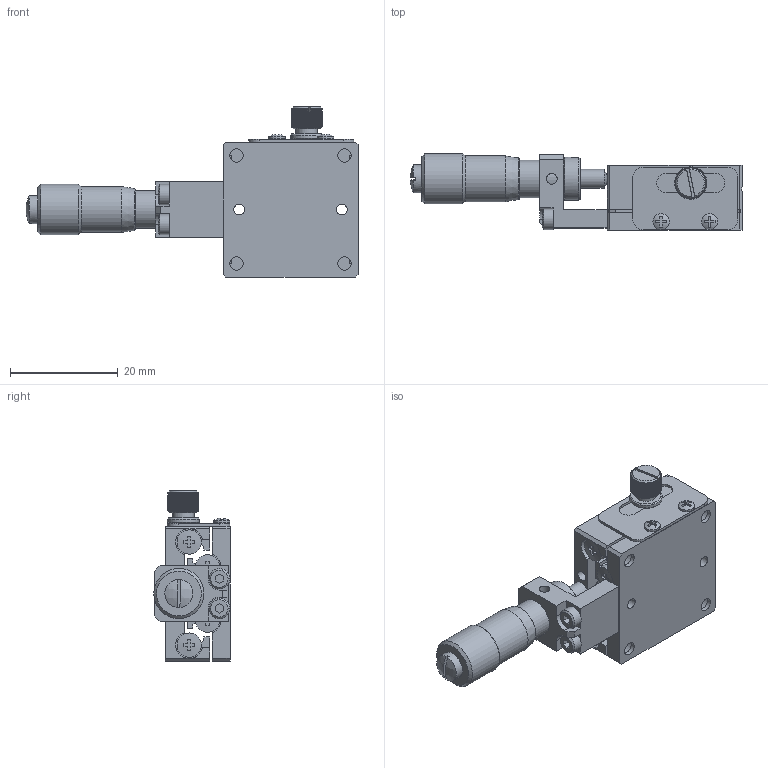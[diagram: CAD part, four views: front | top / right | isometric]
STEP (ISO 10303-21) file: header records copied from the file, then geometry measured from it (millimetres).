
FILE_DESCRIPTION (( 'STEP AP214' ), '1' );
FILE_NAME ('PHS-251C.STEP', '2017-12-04T03:17:30', ( '' ), ( '' ), 'SwSTEP 2.0', 'SolidWorks 2014', '' );
FILE_SCHEMA (( 'AUTOMOTIVE_DESIGN' ));
Length unit declared in the file: millimetre
Products named in the file (34): CM20-2; SHT1-6_5-C1-S01; DIANPIAN; M3-D6-5; M2-14_1 --1-1; PM2-3-D3; SHT1-6_5-02-S01; PHS-252-06(A); PHS-252-04(B); NUT-6_5; PHS-252-01(B)-C; PHS-252-02(B)-C; PHS-251C
Assembly tree (21 placements, depth 2):
  CM20-2
  DIANPIAN
  PM2-3-D3
  SHT1-6_5-02-S01
  NUT-6_5
Bounding box: 61.5 x 14.15 x 31.5 mm (x, y, z)
Volume: 7541.5 mm3; surface area: 10693 mm2
Topology: 22 solids, 22 shells, 1002 faces, 2799 edges, 1878 vertices
Faces by surface type: plane 765, cylinder 157, cone 49, bspline 16, sphere 10, torus 5
Full cylindrical faces by diameter (mm): 1.5 x4, 1.713 x1, 1.998 x4, 2 x59, 2.1 x4, 2.2 x1, 2.5 x5, 3 x4, 3.3 x1, 3.5 x2, 3.8 x2, 4 x2, 4.3 x4, 4.5 x10, 5 x1, 5.2 x1, 5.8 x1, 6 x4, 6.4 x1, 7 x1, 7.2 x1, 8 x1, 8.5 x1, 9.3 x1
Entity records: 33687 total; most frequent: CARTESIAN_POINT 13145, ORIENTED_EDGE 4374, DIRECTION 3175, EDGE_CURVE 2187, VERTEX_POINT 1546, AXIS2_PLACEMENT_3D 1178, EDGE_LOOP 1093, B_SPLINE_CURVE_WITH_KNOTS 966
